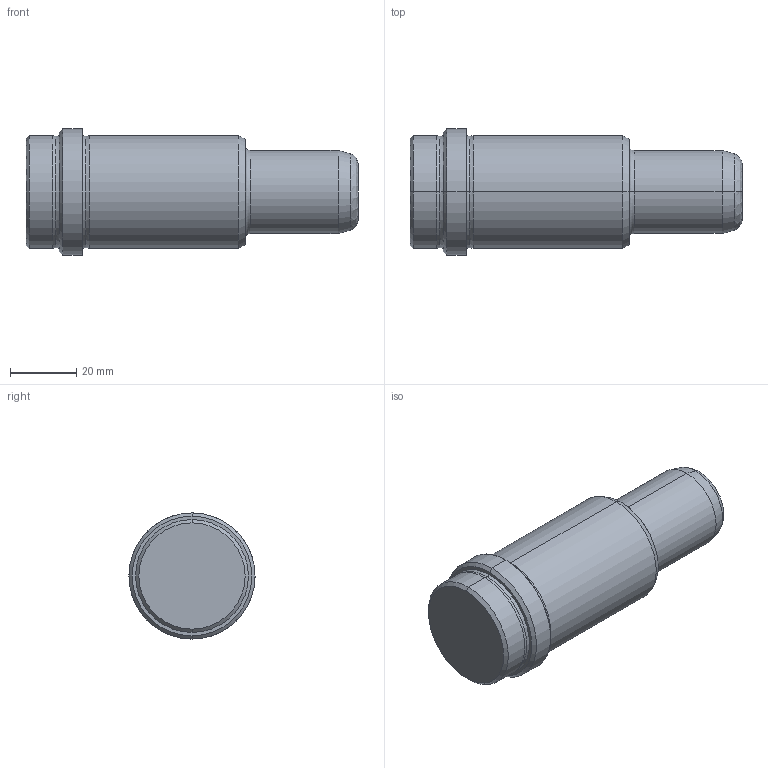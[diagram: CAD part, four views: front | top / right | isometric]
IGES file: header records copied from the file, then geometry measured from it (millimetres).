
Start section: START RECORD GO HERE.
Global section: file name: 357-25X66X100.igs; native system: DASSAULT SYSTEMES CATIA V5 R20 - www.3ds.com; preprocessor: CATIA Version 5 Release 20 ; author: Utente; organization: NB04-ASUS; date: 20210814.112405; units: millimetre
Bounding box: 100 x 38 x 38 mm (x, y, z)
Surface area: 11624.1 mm2 (no closed solid volume)
Topology: 0 solids, 0 shells, 33 faces, 192 edges, 192 vertices
Faces by surface type: revolution 28, plane 5
